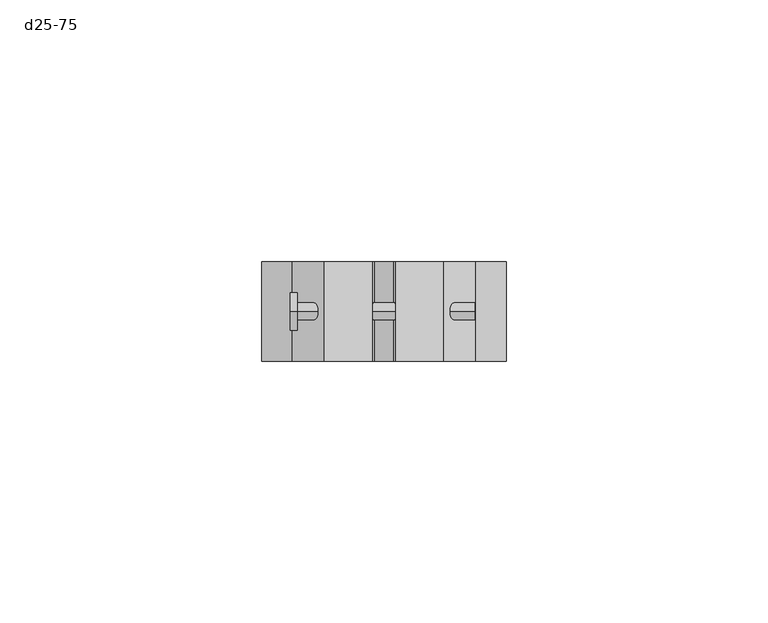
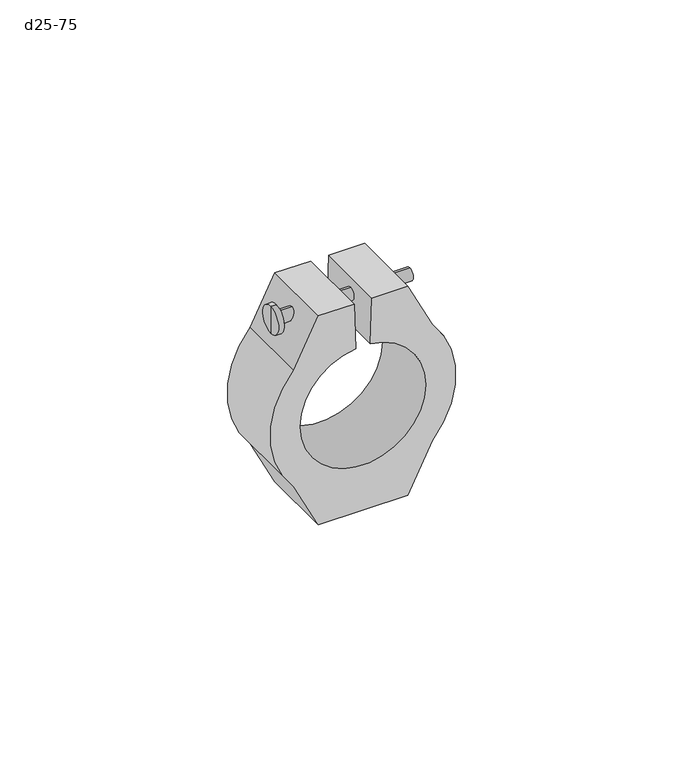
"""IFC4 building model written with IfcOpenShell, lengths in millimetres: pipe fitting geometry, NLRS_50_PIF_UN_FlowFit vastpuntbevestiging_Geberit : d25-75."""

from ifc_helpers import new_model, si_unit, point, frame, origin, origin_2d, place, context, project, spatial, polyline, circle_curve, trimmed, segment, composite_curve, outline, extrude, source, transform, mapped, element, save
from ifc_brep_helpers import plane_surface, cylinder_surface, advanced_brep


def d25_75_2ffe6290(model_context):
    return source(origin(), model_context, "Body", "SolidModel", [
        advanced_brep(
        [(-16.5305911, 0.0, 21.8607905), (-16.5305911, 0.0, 25.1186568), (17.3432339, 0.0, 25.1186568), (17.3432339, 0.0, 21.8607905), (-16.5305911, 0.0, 19.900656), (-16.5305911, 0.0, 27.0787913), (-17.8766989, 0.0, 19.900656), (-17.8766989, 0.0, 27.0787913), (-17.8766989, 0.0, 23.4897236), (17.3432339, 0.0, 23.4897236)],
        [
            (0, 1, circle_curve(frame((-16.5305911, 0.0, 23.4897236), z_axis=(1.0, 0.0, 0.0), x_axis=(0.0, 0.0, 1.0)), 1.6289332)),
            (1, 2),
            (2, 3, circle_curve(frame((17.3432339, 0.0, 23.4897236), z_axis=(-1.0, 0.0, 0.0), x_axis=(0.0, 0.0, 1.0)), 1.6289332)),
            (3, 0),
            (1, 0, circle_curve(frame((-16.5305911, 0.0, 23.4897236), z_axis=(1.0, 0.0, 0.0), x_axis=(0.0, 0.0, 1.0)), 1.6289332)),
            (3, 2, circle_curve(frame((17.3432339, 0.0, 23.4897236), z_axis=(-1.0, 0.0, 0.0), x_axis=(0.0, 0.0, 1.0)), 1.6289332)),
            (4, 5, circle_curve(frame((-16.5305911, 0.0, 23.4897236), z_axis=(1.0, 0.0, 0.0), x_axis=(0.0, 0.0, 1.0)), 3.5890677)),
            (5, 1),
            (0, 4),
            (5, 4, circle_curve(frame((-16.5305911, 0.0, 23.4897236), z_axis=(1.0, 0.0, 0.0), x_axis=(0.0, 0.0, 1.0)), 3.5890677)),
            (6, 7, circle_curve(frame((-17.8766989, 0.0, 23.4897236), z_axis=(1.0, 0.0, 0.0), x_axis=(0.0, 0.0, 1.0)), 3.5890677)),
            (7, 5),
            (4, 6),
            (7, 6, circle_curve(frame((-17.8766989, 0.0, 23.4897236), z_axis=(1.0, 0.0, 0.0), x_axis=(0.0, 0.0, 1.0)), 3.5890677)),
            (8, 7),
            (6, 8),
            (2, 9),
            (9, 3),
        ],
        [
            cylinder_surface(frame((-16.3141989, 0.0, 23.4897236), z_axis=(-1.0, 0.0, 0.0), x_axis=(0.0, 0.0, 1.0)), 1.6289332),
            plane_surface(frame((-16.5305911, 0.0, 23.4897236), z_axis=(1.0, 0.0, 0.0), x_axis=(0.0, 0.0, 1.0))),
            cylinder_surface(frame((-16.3141989, 0.0, 23.4897236), z_axis=(-1.0, 0.0, 0.0), x_axis=(0.0, 0.0, 1.0)), 3.5890677),
            plane_surface(frame((-17.8766989, 0.0, 23.4897236), z_axis=(-1.0, 0.0, 0.0), x_axis=(0.0, 0.0, 1.0))),
            plane_surface(frame((17.3432339, 0.0, 23.4897236), z_axis=(1.0, 0.0, 0.0), x_axis=(0.0, 0.0, 1.0))),
        ],
        [
            (0, [[1, 2, 3, 4]]),
            (0, [[5, -4, 6, -2]]),
            (1, [[7, 8, -1, 9]]),
            (1, [[10, -9, -5, -8]]),
            (2, [[11, 12, -7, 13]]),
            (2, [[14, -13, -10, -12]]),
            (3, [[15, -11, 16]]),
            (3, [[-16, -14, -15]]),
            (4, [[-3, 17, 18]]),
            (4, [[-6, -18, -17]]),
        ],
    ),
        extrude(outline(composite_curve([segment(trimmed(circle_curve(origin_2d(), 16.0), [point((15.8937129, 1.8411653))], [point((15.8937129, -1.8411653))], True, "CARTESIAN"), True, "CONTINUOUS"), segment(polyline([(15.8937129, -1.8411653), (28.0, -2.2648784), (28.0, -11.3723711), (15.5994982, -17.5757121)]), True, "CONTINUOUS"), segment(trimmed(circle_curve(origin_2d(), 23.5), [point((15.5994982, -17.5757121))], [point((-15.5994982, -17.5757121))], False, "CARTESIAN"), True, "CONTINUOUS"), segment(polyline([(-15.5994982, -17.5757121), (-28.0, -11.3723711), (-28.0, 11.3723711), (-15.5994982, 17.5757121)]), True, "CONTINUOUS"), segment(trimmed(circle_curve(origin_2d(), 23.5), [point((-15.5994982, 17.5757121))], [point((15.5994982, 17.5757121))], False, "CARTESIAN"), True, "CONTINUOUS"), segment(polyline([(15.5994982, 17.5757121), (28.0, 11.3723711), (28.0, 2.2648784), (15.8937129, 1.8411653)]), True, "CONTINUOUS")], self_intersect=False)), frame((0.0, -9.5, 0.0), z_axis=(0.0, 1.0, 0.0), x_axis=(0.0, 0.0, 1.0)), (0.0, 0.0, 1.0), 19.0),
    ])


if __name__ == "__main__":
    model = new_model("IFC4")
    model_context = context("Model", 3, world=origin())
    ifc_project = project(units=[si_unit("LENGTHUNIT", "METRE", prefix="MILLI")], contexts=[model_context])
    site = spatial("IfcSite", under=ifc_project)
    building = spatial("IfcBuilding", under=site)
    placement = place(None, origin())
    d25_75_shape = d25_75_2ffe6290(model_context)
    element("IfcPipeFitting", 1, ObjectType="NLRS_50_PIF_UN_FlowFit vastpuntbevestiging_Geberit : d25-75", at=placement, inside=building, context=model_context, shape_type="MappedRepresentation", body=[
        mapped(d25_75_shape, transform((0.0, 0.0, 0.0), x_axis=(1.0, 0.0, 0.0), y_axis=(0.0, 1.0, 0.0), z_axis=(0.0, 0.0, 1.0))),
    ])
    save(model, "model.ifc")
